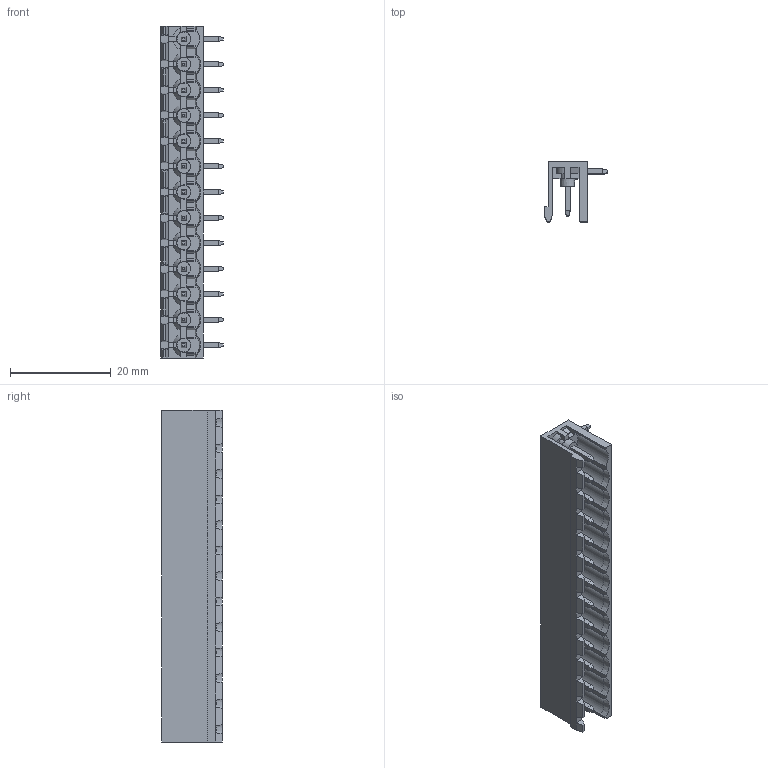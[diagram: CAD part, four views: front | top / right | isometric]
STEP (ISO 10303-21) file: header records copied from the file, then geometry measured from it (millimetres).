
FILE_DESCRIPTION (( 'STEP AP203' ), '1' );
FILE_NAME ('BR8MN1-13.STEP', '2020-03-18T03:17:53', ( '' ), ( '' ), 'SwSTEP 2.0', 'SolidWorks 2019', '' );
FILE_SCHEMA (( 'CONFIG_CONTROL_DESIGN' ));
Length unit declared in the file: millimetre
Products named in the file (1): BR8MN1-13
Bounding box: 12.5 x 12 x 66.04 mm (x, y, z)
Volume: 2522.1 mm3; surface area: 5638.1 mm2
Topology: 1 solids, 1 shells, 1098 faces, 2862 edges, 1766 vertices
Faces by surface type: plane 944, cylinder 66, cone 62, sphere 26
Entity records: 32648 total; most frequent: CARTESIAN_POINT 6225, ORIENTED_EDGE 5620, DIRECTION 5145, EDGE_CURVE 2810, LINE 2401, VECTOR 2401, VERTEX_POINT 1740, AXIS2_PLACEMENT_3D 1372
